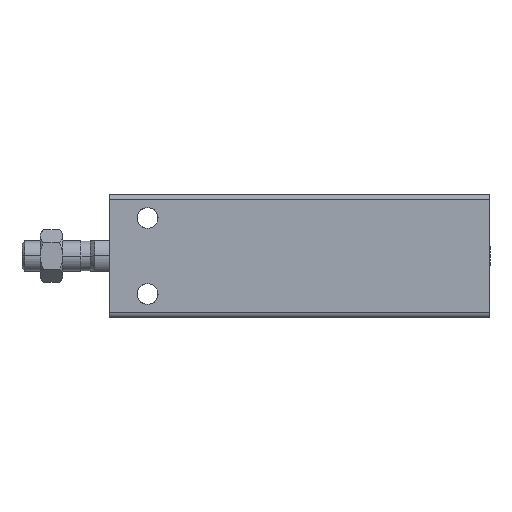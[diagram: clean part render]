
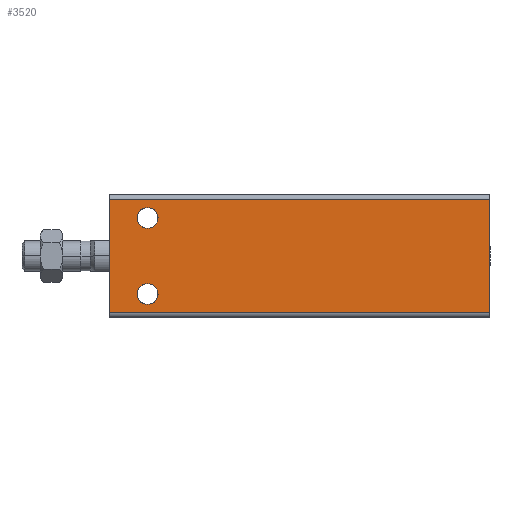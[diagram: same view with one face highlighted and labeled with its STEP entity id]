
A CAD part, front view. The second image highlights one B-rep face of the part: STEP entity #3520.
In plain terms, the highlighted planar face has unit normal (0, -1, 0).
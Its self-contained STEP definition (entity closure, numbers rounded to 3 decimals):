
#1226 = CARTESIAN_POINT ( 'NONE',  ( 0., -25.15, 14.9 ) ) ;
#1309 = EDGE_LOOP ( 'NONE', ( #8797, #5928 ) ) ;
#1906 = VECTOR ( 'NONE', #15599, 1000. ) ;
#2104 = CARTESIAN_POINT ( 'NONE',  ( 10., -25.15, 10. ) ) ;
#2336 = VECTOR ( 'NONE', #9973, 1000. ) ;
#2357 = DIRECTION ( 'NONE',  ( 0., -1., 0. ) ) ;
#2532 = CARTESIAN_POINT ( 'NONE',  ( 10., -25.15, 7.25 ) ) ;
#3224 = CARTESIAN_POINT ( 'NONE',  ( 0., -25.15, -14.9 ) ) ;
#3520 = ADVANCED_FACE ( 'NONE', ( #23216, #18032, #12789 ), #8030, .F. ) ;
#3576 = CARTESIAN_POINT ( 'NONE',  ( 100., -25.15, -14.9 ) ) ;
#3625 = CIRCLE ( 'NONE', #4412, 2.75 ) ;
#4042 = DIRECTION ( 'NONE',  ( 0., 0., 1. ) ) ;
#4190 = DIRECTION ( 'NONE',  ( 0., -1., 0. ) ) ;
#4412 = AXIS2_PLACEMENT_3D ( 'NONE', #14124, #2357, #17938 ) ;
#4791 = EDGE_CURVE ( 'NONE', #21493, #14504, #20061, .T. ) ;
#4988 = AXIS2_PLACEMENT_3D ( 'NONE', #19946, #22065, #20032 ) ;
#5825 = ORIENTED_EDGE ( 'NONE', *, *, #10929, .F. ) ;
#5928 = ORIENTED_EDGE ( 'NONE', *, *, #20353, .F. ) ;
#6920 = AXIS2_PLACEMENT_3D ( 'NONE', #10050, #19991, #23735 ) ;
#7420 = VERTEX_POINT ( 'NONE', #1226 ) ;
#7533 = LINE ( 'NONE', #11844, #2336 ) ;
#7619 = AXIS2_PLACEMENT_3D ( 'NONE', #15996, #4190, #17987 ) ;
#7877 = CARTESIAN_POINT ( 'NONE',  ( 100., -25.15, 14.9 ) ) ;
#7911 = CIRCLE ( 'NONE', #19378, 2.75 ) ;
#8030 = PLANE ( 'NONE',  #6920 ) ;
#8448 = VERTEX_POINT ( 'NONE', #8805 ) ;
#8535 = VERTEX_POINT ( 'NONE', #20656 ) ;
#8797 = ORIENTED_EDGE ( 'NONE', *, *, #21387, .F. ) ;
#8805 = CARTESIAN_POINT ( 'NONE',  ( 10., -25.15, 12.75 ) ) ;
#9144 = VECTOR ( 'NONE', #14986, 1000. ) ;
#9973 = DIRECTION ( 'NONE',  ( 1., 0., 0. ) ) ;
#10050 = CARTESIAN_POINT ( 'NONE',  ( 100., -25.15, 14.9 ) ) ;
#10701 = ORIENTED_EDGE ( 'NONE', *, *, #12946, .F. ) ;
#10929 = EDGE_CURVE ( 'NONE', #14504, #19665, #19722, .T. ) ;
#11583 = CARTESIAN_POINT ( 'NONE',  ( 10., -25.15, -12.75 ) ) ;
#11844 = CARTESIAN_POINT ( 'NONE',  ( 100., -25.15, 14.9 ) ) ;
#12058 = VERTEX_POINT ( 'NONE', #2532 ) ;
#12069 = EDGE_CURVE ( 'NONE', #25190, #8535, #3625, .T. ) ;
#12081 = EDGE_LOOP ( 'NONE', ( #5825, #17197, #10701, #14626 ) ) ;
#12789 = FACE_BOUND ( 'NONE', #1309, .T. ) ;
#12849 = CARTESIAN_POINT ( 'NONE',  ( 100., -25.15, 14.9 ) ) ;
#12859 = LINE ( 'NONE', #13013, #9144 ) ;
#12946 = EDGE_CURVE ( 'NONE', #7420, #21493, #7533, .T. ) ;
#13013 = CARTESIAN_POINT ( 'NONE',  ( 0., -25.15, 14.9 ) ) ;
#14115 = DIRECTION ( 'NONE',  ( 0., -1., 0. ) ) ;
#14124 = CARTESIAN_POINT ( 'NONE',  ( 10., -25.15, -10. ) ) ;
#14504 = VERTEX_POINT ( 'NONE', #3576 ) ;
#14626 = ORIENTED_EDGE ( 'NONE', *, *, #21713, .T. ) ;
#14986 = DIRECTION ( 'NONE',  ( 0., 0., -1. ) ) ;
#15599 = DIRECTION ( 'NONE',  ( -1., 0., 0. ) ) ;
#15996 = CARTESIAN_POINT ( 'NONE',  ( 10., -25.15, 10. ) ) ;
#16353 = EDGE_LOOP ( 'NONE', ( #19595, #23978 ) ) ;
#17197 = ORIENTED_EDGE ( 'NONE', *, *, #4791, .F. ) ;
#17938 = DIRECTION ( 'NONE',  ( 0., 0., 1. ) ) ;
#17987 = DIRECTION ( 'NONE',  ( 0., 0., 1. ) ) ;
#18032 = FACE_BOUND ( 'NONE', #16353, .T. ) ;
#18484 = CIRCLE ( 'NONE', #7619, 2.75 ) ;
#19378 = AXIS2_PLACEMENT_3D ( 'NONE', #2104, #14115, #4042 ) ;
#19595 = ORIENTED_EDGE ( 'NONE', *, *, #20357, .F. ) ;
#19665 = VERTEX_POINT ( 'NONE', #3224 ) ;
#19722 = LINE ( 'NONE', #21496, #1906 ) ;
#19768 = DIRECTION ( 'NONE',  ( 0., 0., -1. ) ) ;
#19946 = CARTESIAN_POINT ( 'NONE',  ( 10., -25.15, -10. ) ) ;
#19991 = DIRECTION ( 'NONE',  ( 0., 1., 0. ) ) ;
#20032 = DIRECTION ( 'NONE',  ( 0., 0., 1. ) ) ;
#20061 = LINE ( 'NONE', #7877, #21277 ) ;
#20353 = EDGE_CURVE ( 'NONE', #12058, #8448, #18484, .T. ) ;
#20357 = EDGE_CURVE ( 'NONE', #8535, #25190, #20922, .T. ) ;
#20656 = CARTESIAN_POINT ( 'NONE',  ( 10., -25.15, -7.25 ) ) ;
#20922 = CIRCLE ( 'NONE', #4988, 2.75 ) ;
#21277 = VECTOR ( 'NONE', #19768, 1000. ) ;
#21387 = EDGE_CURVE ( 'NONE', #8448, #12058, #7911, .T. ) ;
#21493 = VERTEX_POINT ( 'NONE', #12849 ) ;
#21496 = CARTESIAN_POINT ( 'NONE',  ( 100., -25.15, -14.9 ) ) ;
#21713 = EDGE_CURVE ( 'NONE', #7420, #19665, #12859, .T. ) ;
#22065 = DIRECTION ( 'NONE',  ( 0., -1., 0. ) ) ;
#23216 = FACE_OUTER_BOUND ( 'NONE', #12081, .T. ) ;
#23735 = DIRECTION ( 'NONE',  ( 0., 0., 1. ) ) ;
#23978 = ORIENTED_EDGE ( 'NONE', *, *, #12069, .F. ) ;
#25190 = VERTEX_POINT ( 'NONE', #11583 ) ;
